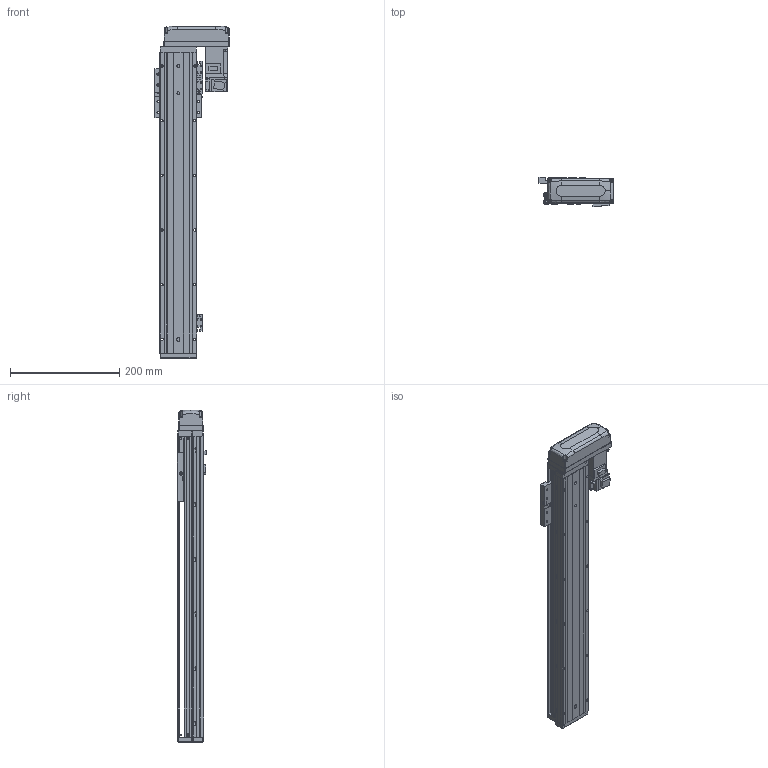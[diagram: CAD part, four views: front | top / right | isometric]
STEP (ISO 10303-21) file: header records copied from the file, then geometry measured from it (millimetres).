
FILE_DESCRIPTION (( 'STEP AP203' ), '1' );
FILE_NAME ('KTHAL60-400-BL-M10-C4L.step', '2022-03-19T08:38:02', ( '微软用户' ), ( '微软中国' ), 'SwSTEP 2.0', 'SolidWorks 2020', '' );
FILE_SCHEMA (( 'CONFIG_CONTROL_DESIGN' ));
Length unit declared in the file: millimetre
Products named in the file (18): EE_SX911P_R; HG-KR13（三菱）; KTHA60-001_550; CTHA60-017; CTHA60-015-2_CTHA60-015-2; KTHLA60-002; CTHA60-021; CTHA60-033; KTHA60-004; GBT 70.1-M4×16; GBT 70.1-M3×15; KTHA60-005; GBT77-2000M3-3; KTHAL60-400-BL-M10-C4L; GB¨uT 70.2-M3¡Á5_M3¡Á6; GBT 70.1-M3℅6; GBT 70.3-M3℅6; CTHA60-016
Assembly tree (51 placements, depth 2):
  KTHAL60-400-BL-M10-C4L
    KTHA60-001_550
    KTHLA60-002
    KTHA60-004
    KTHA60-005
    GB¨uT 70.2-M3¡Á5_M3¡Á6  x5
    GBT 70.3-M3℅6  x4
    EE_SX911P_R  x3
    CTHA60-017  x3
    CTHA60-021  x2
    GBT 70.1-M4×16  x10
    GBT77-2000M3-3  x6
    GBT 70.1-M3℅6  x6
    CTHA60-016
    HG-KR13（三菱）
    CTHA60-015-2_CTHA60-015-2
    CTHA60-033
    GBT 70.1-M3×15  x4
Bounding box: 137 x 53.3 x 607 mm (x, y, z)
Volume: 1370947.4 mm3; surface area: 338055.1 mm2
Topology: 54 solids, 54 shells, 2275 faces, 5387 edges, 3305 vertices
Faces by surface type: plane 1300, cylinder 553, cone 284, torus 98, bspline 26, sphere 14
Entity records: 39347 total; most frequent: CARTESIAN_POINT 7448, DIRECTION 6133, ORIENTED_EDGE 5918, EDGE_CURVE 2959, AXIS2_PLACEMENT_3D 2057, LINE 2019, VECTOR 2019, VERTEX_POINT 1854
